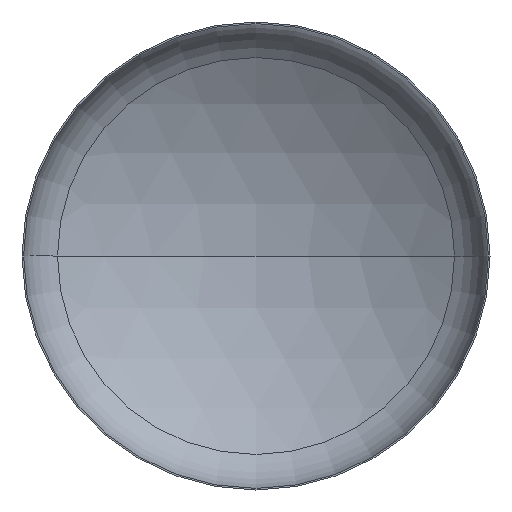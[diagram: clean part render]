
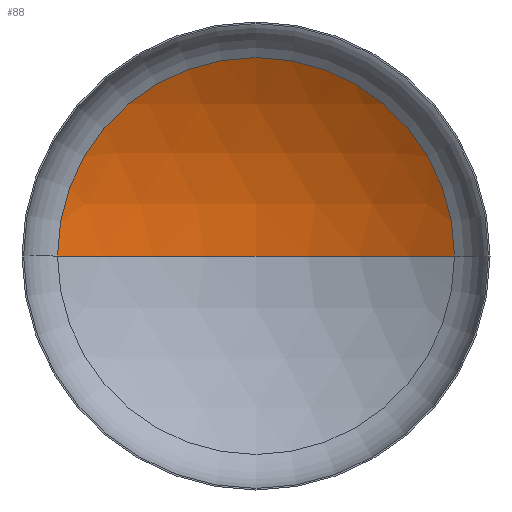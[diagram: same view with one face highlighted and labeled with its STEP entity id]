
A CAD part, front view. The second image highlights one B-rep face of the part: STEP entity #88.
In plain terms, the highlighted spherical face has radius 3600 mm.
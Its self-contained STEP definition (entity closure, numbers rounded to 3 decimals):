
#5 = EDGE_LOOP ( 'NONE', ( #119, #93, #117 ) ) ;
#18 = VERTEX_POINT ( 'NONE', #368 ) ;
#43 = AXIS2_PLACEMENT_3D ( 'NONE', #170, #221, #385 ) ;
#52 = AXIS2_PLACEMENT_3D ( 'NONE', #114, #163, #157 ) ;
#60 = VERTEX_POINT ( 'NONE', #240 ) ;
#88 = ADVANCED_FACE ( 'NONE', ( #389 ), #211, .F. ) ;
#93 = ORIENTED_EDGE ( 'NONE', *, *, #331, .T. ) ;
#114 = CARTESIAN_POINT ( 'NONE',  ( 0., 634.306, 0. ) ) ;
#117 = ORIENTED_EDGE ( 'NONE', *, *, #311, .T. ) ;
#119 = ORIENTED_EDGE ( 'NONE', *, *, #377, .F. ) ;
#130 = VERTEX_POINT ( 'NONE', #343 ) ;
#142 = AXIS2_PLACEMENT_3D ( 'NONE', #234, #238, #232 ) ;
#157 = DIRECTION ( 'NONE',  ( 1., 0., 0. ) ) ;
#161 = CIRCLE ( 'NONE', #52, 1908.434 ) ;
#163 = DIRECTION ( 'NONE',  ( 0., -1., 0. ) ) ;
#170 = CARTESIAN_POINT ( 'NONE',  ( 0., -2418.214, 0. ) ) ;
#184 = DIRECTION ( 'NONE',  ( 1., 0., 0. ) ) ;
#211 = SPHERICAL_SURFACE ( 'NONE', #142, 3600. ) ;
#219 = CIRCLE ( 'NONE', #43, 3600. ) ;
#221 = DIRECTION ( 'NONE',  ( 0., 0., -1. ) ) ;
#228 = CARTESIAN_POINT ( 'NONE',  ( 0., -2418.214, 0. ) ) ;
#232 = DIRECTION ( 'NONE',  ( -1., 0., 0. ) ) ;
#234 = CARTESIAN_POINT ( 'NONE',  ( 0., -2418.214, 0. ) ) ;
#238 = DIRECTION ( 'NONE',  ( 0., 0., -1. ) ) ;
#240 = CARTESIAN_POINT ( 'NONE',  ( 0., 1181.786, 0. ) ) ;
#311 = EDGE_CURVE ( 'NONE', #130, #18, #161, .T. ) ;
#319 = DIRECTION ( 'NONE',  ( 0., 0., 1. ) ) ;
#320 = CIRCLE ( 'NONE', #407, 3600. ) ;
#331 = EDGE_CURVE ( 'NONE', #60, #130, #219, .T. ) ;
#343 = CARTESIAN_POINT ( 'NONE',  ( 1908.434, 634.306, 0. ) ) ;
#368 = CARTESIAN_POINT ( 'NONE',  ( -1908.434, 634.306, 0. ) ) ;
#377 = EDGE_CURVE ( 'NONE', #60, #18, #320, .T. ) ;
#385 = DIRECTION ( 'NONE',  ( -1., 0., 0. ) ) ;
#389 = FACE_OUTER_BOUND ( 'NONE', #5, .T. ) ;
#407 = AXIS2_PLACEMENT_3D ( 'NONE', #228, #319, #184 ) ;
